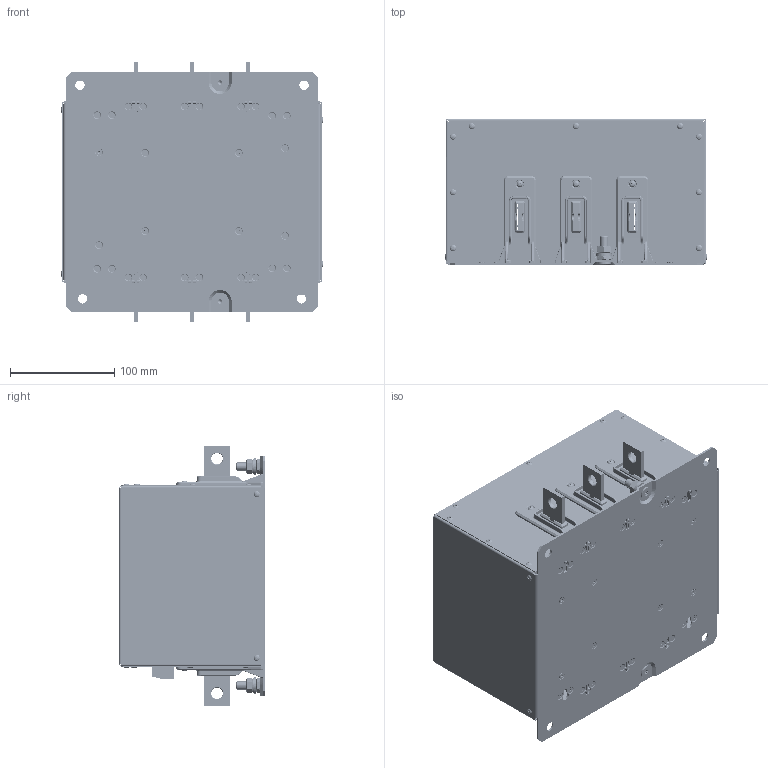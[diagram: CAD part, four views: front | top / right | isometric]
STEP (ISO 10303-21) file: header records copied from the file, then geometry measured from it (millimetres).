
FILE_DESCRIPTION(/* description */ ('raw material description'),/* implementation_level */ '2;1');
FILE_NAME(/* name */ 'C:\Users\Orhan.Eker\Desktop\FN3840-380-99.stp',/* time_stamp */ '2020-02-24T17:08:01+01:00',/* author */ ('orhan.eker'),/* organization */ ('Schaffner EMV AG'),/* preprocessor_version */ 'ST-DEVELOPER v16.5',/* originating_system */ 'Autodesk Inventor 2017',/* authorisation */ '');
FILE_SCHEMA (('AUTOMOTIVE_DESIGN { 1 0 10303 214 3 1 1 }'));
Products named in the file (1): Part2
Bounding box: 252.2 x 140.14 x 250 mm (x, y, z)
Volume: 450546.1 mm3; surface area: 555522.2 mm2
Topology: 32 solids, 64 shells, 6781 faces, 17179 edges, 10873 vertices
Faces by surface type: plane 3551, cylinder 1630, bspline 1190, cone 278, sphere 84, torus 48
Full cylindrical faces by diameter (mm): 1.63 x22, 1.78 x26, 1.93 x4, 2.4 x28, 2.8 x20, 3.2 x104, 3.3 x46, 3.33 x4, 3.5 x28, 4 x2, 4.7 x6, 4.82 x4, 5 x4, 5.5 x48, 6.4 x4, 7 x4, 7.3 x2, 8 x8, 8.4 x4, 9 x6, 9.9 x2, 11 x6, 13 x2, 16 x2
Entity records: 222852 total; most frequent: CARTESIAN_POINT 58792, ORIENTED_EDGE 32886, DIRECTION 30663, EDGE_CURVE 16443, VERTEX_POINT 10791, LINE 10519, VECTOR 10519, AXIS2_PLACEMENT_3D 10072
